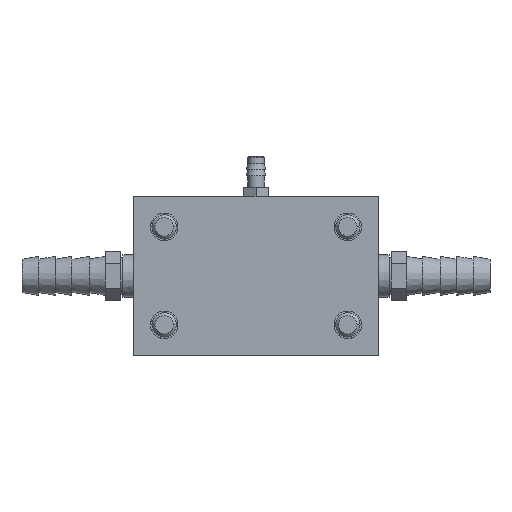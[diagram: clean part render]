
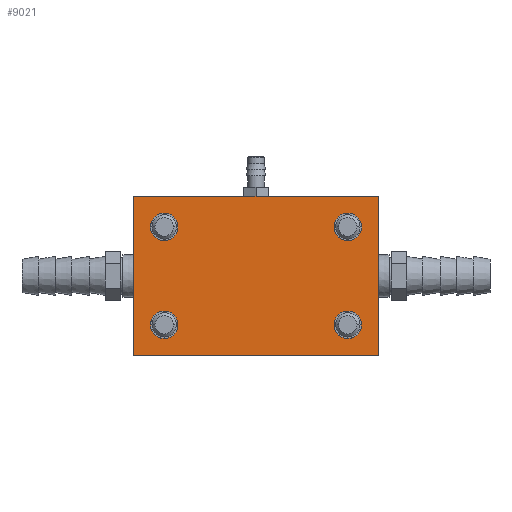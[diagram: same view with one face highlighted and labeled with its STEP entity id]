
A CAD part, left-side view. The second image highlights one B-rep face of the part: STEP entity #9021.
In plain terms, the highlighted planar face has unit normal (-1, 0, 0).
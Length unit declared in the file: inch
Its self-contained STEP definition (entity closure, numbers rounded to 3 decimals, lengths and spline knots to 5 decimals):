
#8759=CARTESIAN_POINT('',(-3.25,-0.9375,-0.5));
#8760=DIRECTION('',(1.,0.,0.));
#8761=DIRECTION('',(0.,-1.,0.));
#8762=AXIS2_PLACEMENT_3D('',#8759,#8760,#8761);
#8764=CARTESIAN_POINT('',(-3.25,-0.9375,-0.5));
#8765=DIRECTION('',(1.,0.,0.));
#8766=DIRECTION('',(0.,1.,0.));
#8767=AXIS2_PLACEMENT_3D('',#8764,#8765,#8766);
#8769=CARTESIAN_POINT('',(-3.25,0.9375,-0.5));
#8770=DIRECTION('',(1.,0.,0.));
#8771=DIRECTION('',(0.,-1.,0.));
#8772=AXIS2_PLACEMENT_3D('',#8769,#8770,#8771);
#8774=CARTESIAN_POINT('',(-3.25,0.9375,-0.5));
#8775=DIRECTION('',(1.,0.,0.));
#8776=DIRECTION('',(0.,1.,0.));
#8777=AXIS2_PLACEMENT_3D('',#8774,#8775,#8776);
#8779=CARTESIAN_POINT('',(-3.25,0.9375,0.5));
#8780=DIRECTION('',(1.,0.,0.));
#8781=DIRECTION('',(0.,-1.,0.));
#8782=AXIS2_PLACEMENT_3D('',#8779,#8780,#8781);
#8784=CARTESIAN_POINT('',(-3.25,0.9375,0.5));
#8785=DIRECTION('',(1.,0.,0.));
#8786=DIRECTION('',(0.,1.,0.));
#8787=AXIS2_PLACEMENT_3D('',#8784,#8785,#8786);
#8789=CARTESIAN_POINT('',(-3.25,-0.9375,0.5));
#8790=DIRECTION('',(1.,0.,0.));
#8791=DIRECTION('',(0.,-1.,0.));
#8792=AXIS2_PLACEMENT_3D('',#8789,#8790,#8791);
#8794=CARTESIAN_POINT('',(-3.25,-0.9375,0.5));
#8795=DIRECTION('',(1.,0.,0.));
#8796=DIRECTION('',(0.,1.,0.));
#8797=AXIS2_PLACEMENT_3D('',#8794,#8795,#8796);
#8891=DIRECTION('',(0.,0.,-1.));
#8892=VECTOR('',#8891,1.625);
#8893=CARTESIAN_POINT('',(-3.25,-1.25,0.8125));
#8894=LINE('',#8893,#8892);
#8899=DIRECTION('',(0.,1.,0.));
#8900=VECTOR('',#8899,2.5);
#8901=CARTESIAN_POINT('',(-3.25,-1.25,-0.8125));
#8902=LINE('',#8901,#8900);
#8903=DIRECTION('',(0.,0.,1.));
#8904=VECTOR('',#8903,1.625);
#8905=CARTESIAN_POINT('',(-3.25,1.25,-0.8125));
#8906=LINE('',#8905,#8904);
#8911=DIRECTION('',(0.,-1.,0.));
#8912=VECTOR('',#8911,2.5);
#8913=CARTESIAN_POINT('',(-3.25,1.25,0.8125));
#8914=LINE('',#8913,#8912);
#8923=CARTESIAN_POINT('',(-3.25,-1.25,-0.8125));
#8924=CARTESIAN_POINT('',(-3.25,1.25,-0.8125));
#8925=VERTEX_POINT('',#8923);
#8926=VERTEX_POINT('',#8924);
#8929=CARTESIAN_POINT('',(-3.25,-1.25,0.8125));
#8930=VERTEX_POINT('',#8929);
#8931=CARTESIAN_POINT('',(-3.25,1.25,0.8125));
#8932=VERTEX_POINT('',#8931);
#8935=CARTESIAN_POINT('',(-3.25,1.07813,0.5));
#8937=VERTEX_POINT('',#8935);
#8939=CARTESIAN_POINT('',(-3.25,0.79688,0.5));
#8941=VERTEX_POINT('',#8939);
#8943=CARTESIAN_POINT('',(-3.25,-0.79688,0.5));
#8945=VERTEX_POINT('',#8943);
#8947=CARTESIAN_POINT('',(-3.25,-1.07813,0.5));
#8949=VERTEX_POINT('',#8947);
#8951=CARTESIAN_POINT('',(-3.25,1.07813,-0.5));
#8953=VERTEX_POINT('',#8951);
#8955=CARTESIAN_POINT('',(-3.25,0.79688,-0.5));
#8957=VERTEX_POINT('',#8955);
#8959=CARTESIAN_POINT('',(-3.25,-0.79688,-0.5));
#8961=VERTEX_POINT('',#8959);
#8963=CARTESIAN_POINT('',(-3.25,-1.07813,-0.5));
#8965=VERTEX_POINT('',#8963);
#8983=CARTESIAN_POINT('',(-3.25,0.,0.));
#8984=DIRECTION('',(1.,0.,0.));
#8985=DIRECTION('',(0.,-1.,0.));
#8986=AXIS2_PLACEMENT_3D('',#8983,#8984,#8985);
#8987=PLANE('',#8986);
#8989=ORIENTED_EDGE('',*,*,#8988,.T.);
#8991=ORIENTED_EDGE('',*,*,#8990,.T.);
#8993=ORIENTED_EDGE('',*,*,#8992,.T.);
#8995=ORIENTED_EDGE('',*,*,#8994,.T.);
#8996=EDGE_LOOP('',(#8989,#8991,#8993,#8995));
#8997=FACE_OUTER_BOUND('',#8996,.F.);
#8999=ORIENTED_EDGE('',*,*,#8998,.F.);
#9001=ORIENTED_EDGE('',*,*,#9000,.F.);
#9002=EDGE_LOOP('',(#8999,#9001));
#9003=FACE_BOUND('',#9002,.F.);
#9004=ORIENTED_EDGE('',*,*,#8972,.F.);
#9006=ORIENTED_EDGE('',*,*,#9005,.F.);
#9007=EDGE_LOOP('',(#9004,#9006));
#9008=FACE_BOUND('',#9007,.F.);
#9010=ORIENTED_EDGE('',*,*,#9009,.F.);
#9012=ORIENTED_EDGE('',*,*,#9011,.F.);
#9013=EDGE_LOOP('',(#9010,#9012));
#9014=FACE_BOUND('',#9013,.F.);
#9016=ORIENTED_EDGE('',*,*,#9015,.F.);
#9018=ORIENTED_EDGE('',*,*,#9017,.F.);
#9019=EDGE_LOOP('',(#9016,#9018));
#9020=FACE_BOUND('',#9019,.F.);
#8763=CIRCLE('',#8762,0.14063);
#8768=CIRCLE('',#8767,0.14063);
#8773=CIRCLE('',#8772,0.14063);
#8778=CIRCLE('',#8777,0.14063);
#8783=CIRCLE('',#8782,0.14063);
#8788=CIRCLE('',#8787,0.14063);
#8793=CIRCLE('',#8792,0.14063);
#8798=CIRCLE('',#8797,0.14063);
#8972=EDGE_CURVE('',#8941,#8937,#8783,.T.);
#8988=EDGE_CURVE('',#8925,#8926,#8902,.T.);
#8990=EDGE_CURVE('',#8926,#8932,#8906,.T.);
#8992=EDGE_CURVE('',#8932,#8930,#8914,.T.);
#8994=EDGE_CURVE('',#8930,#8925,#8894,.T.);
#8998=EDGE_CURVE('',#8957,#8953,#8773,.T.);
#9000=EDGE_CURVE('',#8953,#8957,#8778,.T.);
#9005=EDGE_CURVE('',#8937,#8941,#8788,.T.);
#9009=EDGE_CURVE('',#8949,#8945,#8793,.T.);
#9011=EDGE_CURVE('',#8945,#8949,#8798,.T.);
#9015=EDGE_CURVE('',#8965,#8961,#8763,.T.);
#9017=EDGE_CURVE('',#8961,#8965,#8768,.T.);
#9021=ADVANCED_FACE('',(#8997,#9003,#9008,#9014,#9020),#8987,.F.);
